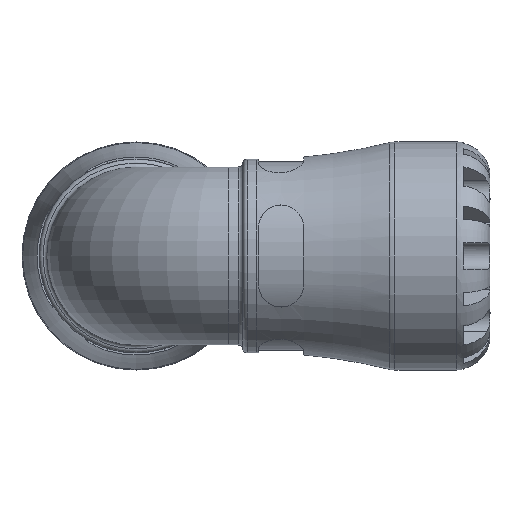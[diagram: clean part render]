
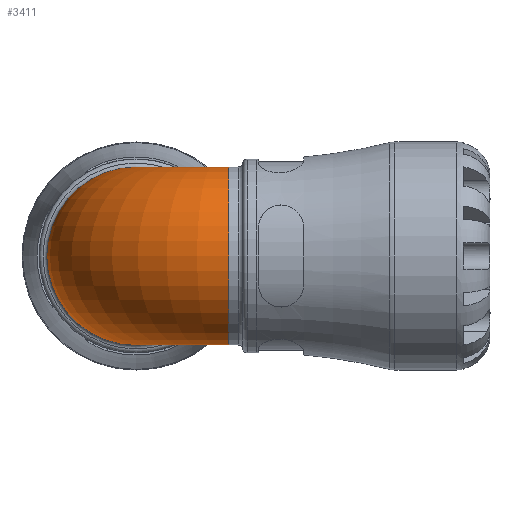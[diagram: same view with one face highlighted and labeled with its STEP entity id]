
A CAD part, front view. The second image highlights one B-rep face of the part: STEP entity #3411.
In plain terms, the highlighted toroidal (fillet/blend) face has major radius 19.087 mm and minor radius 18.326 mm.
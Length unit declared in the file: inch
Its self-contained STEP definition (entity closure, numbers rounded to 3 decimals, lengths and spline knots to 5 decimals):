
#681=FACE_OUTER_BOUND('',#877,.T.);
#877=EDGE_LOOP('',(#2165,#2166,#2167,#2168,#2169,#2170));
#1087=CIRCLE('',#3633,0.7215);
#1088=CIRCLE('',#3634,0.02997);
#1089=CIRCLE('',#3635,0.7215);
#1090=CIRCLE('',#3636,0.7215);
#1091=CIRCLE('',#3637,0.7215);
#1307=VERTEX_POINT('',#5063);
#1308=VERTEX_POINT('',#5064);
#1309=VERTEX_POINT('',#5066);
#1310=VERTEX_POINT('',#5068);
#1643=EDGE_CURVE('',#1307,#1308,#1087,.T.);
#1644=EDGE_CURVE('',#1307,#1309,#1088,.T.);
#1645=EDGE_CURVE('',#1310,#1309,#1089,.T.);
#1646=EDGE_CURVE('',#1309,#1310,#1090,.T.);
#1647=EDGE_CURVE('',#1308,#1307,#1091,.T.);
#2165=ORIENTED_EDGE('',*,*,#1643,.F.);
#2166=ORIENTED_EDGE('',*,*,#1644,.T.);
#2167=ORIENTED_EDGE('',*,*,#1645,.F.);
#2168=ORIENTED_EDGE('',*,*,#1646,.F.);
#2169=ORIENTED_EDGE('',*,*,#1644,.F.);
#2170=ORIENTED_EDGE('',*,*,#1647,.F.);
#3202=TOROIDAL_SURFACE('',#3632,0.75148,0.7215);
#3411=ADVANCED_FACE('',(#681),#3202,.T.);
#3632=AXIS2_PLACEMENT_3D('',#5062,#4057,#4058);
#3633=AXIS2_PLACEMENT_3D('',#5065,#4059,#4060);
#3634=AXIS2_PLACEMENT_3D('',#5067,#4061,#4062);
#3635=AXIS2_PLACEMENT_3D('',#5069,#4063,#4064);
#3636=AXIS2_PLACEMENT_3D('',#5070,#4065,#4066);
#3637=AXIS2_PLACEMENT_3D('',#5071,#4067,#4068);
#4057=DIRECTION('center_axis',(0.,0.,1.));
#4058=DIRECTION('ref_axis',(1.,0.,0.));
#4059=DIRECTION('center_axis',(1.,0.,0.));
#4060=DIRECTION('ref_axis',(0.,0.,-1.));
#4061=DIRECTION('center_axis',(0.,0.,-1.));
#4062=DIRECTION('ref_axis',(1.,0.,0.));
#4063=DIRECTION('center_axis',(0.,1.,0.));
#4064=DIRECTION('ref_axis',(0.,0.,-1.));
#4065=DIRECTION('center_axis',(0.,1.,0.));
#4066=DIRECTION('ref_axis',(0.,0.,-1.));
#4067=DIRECTION('center_axis',(1.,0.,0.));
#4068=DIRECTION('ref_axis',(0.,0.,-1.));
#5062=CARTESIAN_POINT('Origin',(0.75148,0.75148,0.));
#5063=CARTESIAN_POINT('',(0.75148,0.7215,0.));
#5064=CARTESIAN_POINT('',(0.75148,-0.7215,0.));
#5065=CARTESIAN_POINT('Origin',(0.75148,0.,0.));
#5066=CARTESIAN_POINT('',(0.7215,0.75148,0.));
#5067=CARTESIAN_POINT('Origin',(0.75148,0.75148,0.));
#5068=CARTESIAN_POINT('',(0.,0.75148,-0.7215));
#5069=CARTESIAN_POINT('Origin',(0.,0.75148,0.));
#5070=CARTESIAN_POINT('Origin',(0.,0.75148,0.));
#5071=CARTESIAN_POINT('Origin',(0.75148,0.,0.));
